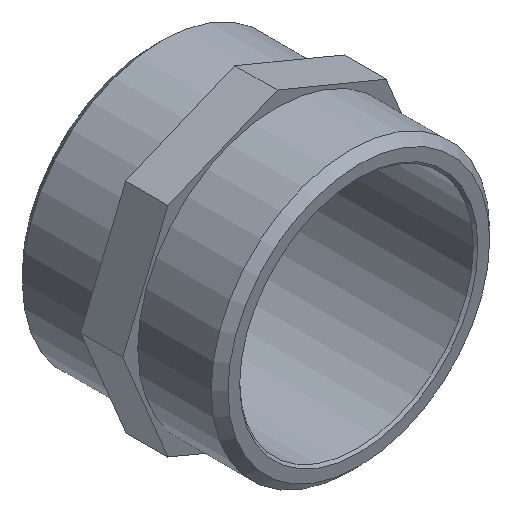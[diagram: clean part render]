
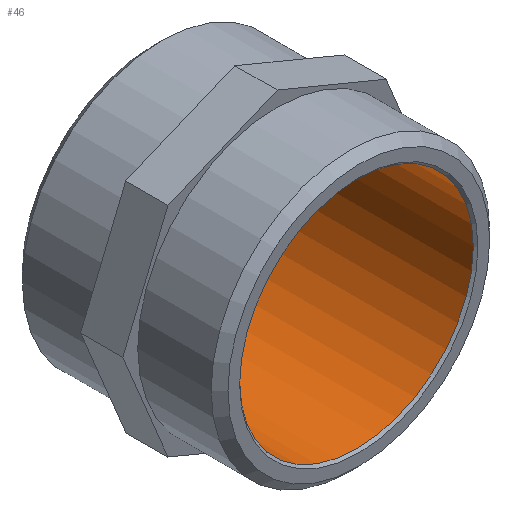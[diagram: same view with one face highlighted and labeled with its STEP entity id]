
A CAD part, isometric view. The second image highlights one B-rep face of the part: STEP entity #46.
In plain terms, the highlighted cylindrical face has radius 25 mm (diameter 50 mm), a full revolution.
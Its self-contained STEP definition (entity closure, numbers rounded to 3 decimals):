
#46=ADVANCED_FACE('',(#81,#83),#85,.F.);
#81=FACE_OUTER_BOUND('',#82,.T.);
#82=EDGE_LOOP('',(#222));
#83=FACE_OUTER_BOUND('',#84,.T.);
#84=EDGE_LOOP('',(#223));
#85=CYLINDRICAL_SURFACE('',#86,25.);
#86=AXIS2_PLACEMENT_3D('',#87,#88,#89);
#87=CARTESIAN_POINT('',(0.,-23.,0.));
#88=DIRECTION('',(0.,1.,0.));
#89=DIRECTION('',(-1.,0.,0.));
#222=ORIENTED_EDGE('',*,*,#290,.F.);
#223=ORIENTED_EDGE('',*,*,#291,.F.);
#290=EDGE_CURVE('',#328,#328,#329,.F.);
#291=EDGE_CURVE('',#330,#330,#331,.T.);
#328=VERTEX_POINT('',#400);
#329=CIRCLE('',#401,25.);
#330=VERTEX_POINT('',#405);
#331=CIRCLE('',#406,25.);
#400=CARTESIAN_POINT('',(-25.,21.5,0.));
#401=AXIS2_PLACEMENT_3D('',#402,#403,#404);
#402=CARTESIAN_POINT('',(0.,21.5,0.));
#403=DIRECTION('',(0.,1.,0.));
#404=DIRECTION('',(-1.,0.,0.));
#405=CARTESIAN_POINT('',(-25.,-21.5,0.));
#406=AXIS2_PLACEMENT_3D('',#407,#408,#409);
#407=CARTESIAN_POINT('',(0.,-21.5,0.));
#408=DIRECTION('',(0.,1.,0.));
#409=DIRECTION('',(-1.,0.,0.));
